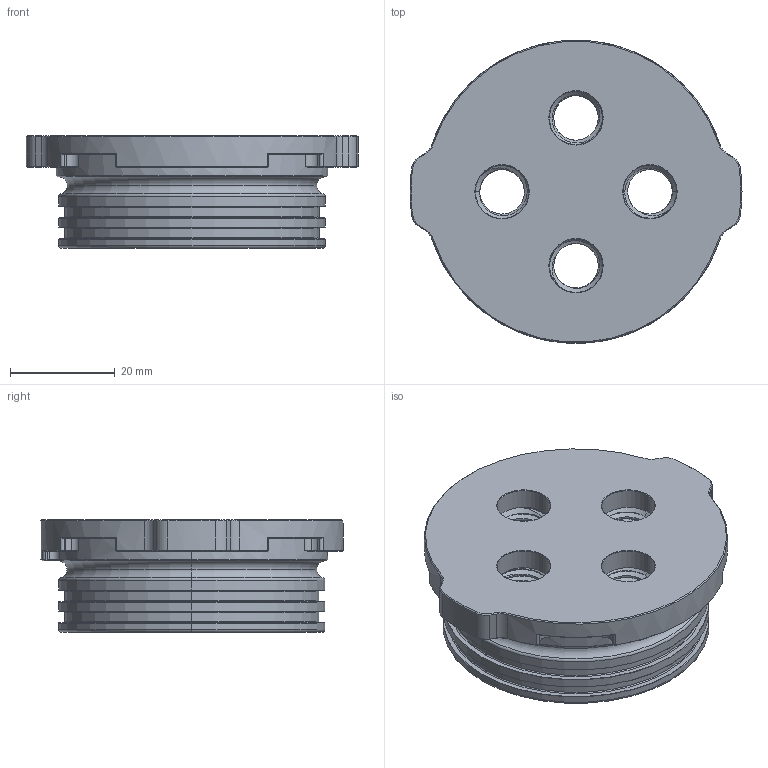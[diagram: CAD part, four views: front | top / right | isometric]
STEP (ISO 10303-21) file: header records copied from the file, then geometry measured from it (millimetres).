
FILE_DESCRIPTION (( 'STEP AP214' ), '1' );
FILE_NAME ('BR-102922-004_Rev_3.step', '2024-12-10T19:34:53', ( '' ), ( '' ), 'SwSTEP 2.0', 'SolidWorks 2024', '' );
FILE_SCHEMA (( 'AUTOMOTIVE_DESIGN' ));
Length unit declared in the file: millimetre
Products named in the file (1): BR-102922-004_Rev_3
Bounding box: 63.5 x 57.94 x 21.5 mm (x, y, z)
Volume: 20943.8 mm3; surface area: 15025.1 mm2
Topology: 1 solids, 1 shells, 692 faces, 1799 edges, 1096 vertices
Faces by surface type: cylinder 329, cone 220, plane 90, bspline 32, torus 21
Entity records: 35734 total; most frequent: CARTESIAN_POINT 19972, ORIENTED_EDGE 3534, DIRECTION 3187, EDGE_CURVE 1767, AXIS2_PLACEMENT_3D 1235, VERTEX_POINT 1096, EDGE_LOOP 719, VECTOR 717
